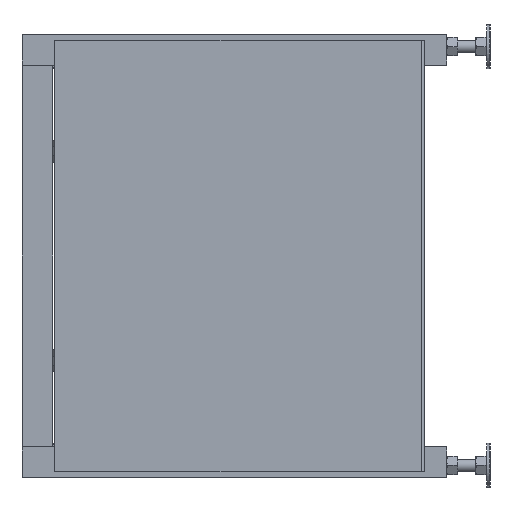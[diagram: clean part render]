
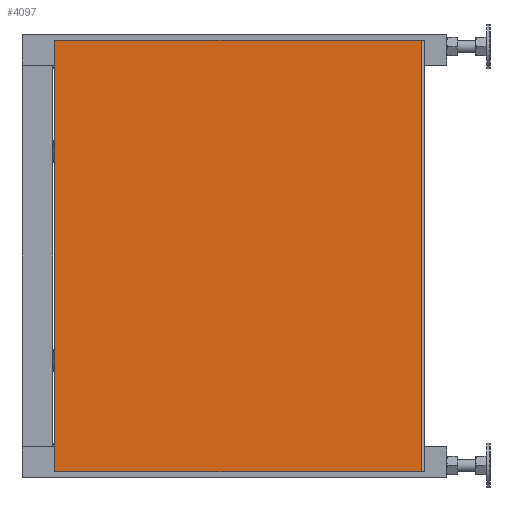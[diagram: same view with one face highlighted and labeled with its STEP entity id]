
A CAD part, left-side view. The second image highlights one B-rep face of the part: STEP entity #4097.
In plain terms, the highlighted planar face has unit normal (-1, 0, 0) as drawn and (0, 1, 0) by its records, which use the part's own axes.
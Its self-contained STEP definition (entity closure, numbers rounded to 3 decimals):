
#4097=ADVANCED_FACE('',(#6295),#6297,.T.);
#6295=FACE_BOUND('',#6296,.T.);
#6296=EDGE_LOOP('',(#7807,#7808,#7809,#7810));
#6297=PLANE('',#6298);
#6298=AXIS2_PLACEMENT_3D('',#6299,#6300,#6301);
#6299=CARTESIAN_POINT('',(0.,28.,-350.));
#6300=DIRECTION('',(0.,1.,-0.));
#6301=DIRECTION('',(-1.,0.,0.));
#7807=ORIENTED_EDGE('',*,*,#8545,.T.);
#7808=ORIENTED_EDGE('',*,*,#8546,.T.);
#7809=ORIENTED_EDGE('',*,*,#8547,.F.);
#7810=ORIENTED_EDGE('',*,*,#8548,.F.);
#8545=EDGE_CURVE('',#9421,#9422,#9423,.T.);
#8546=EDGE_CURVE('',#9422,#9424,#9425,.T.);
#8547=EDGE_CURVE('',#9426,#9424,#9427,.T.);
#8548=EDGE_CURVE('',#9421,#9426,#9428,.T.);
#9421=VERTEX_POINT('',#12840);
#9422=VERTEX_POINT('',#12841);
#9423=LINE('',#12842,#12843);
#9424=VERTEX_POINT('',#12845);
#9425=LINE('',#12846,#12847);
#9426=VERTEX_POINT('',#12849);
#9427=LINE('',#12850,#12851);
#9428=LINE('',#12853,#12854);
#12840=CARTESIAN_POINT('',(0.,28.,-350.));
#12841=CARTESIAN_POINT('',(-595.,28.,-350.));
#12842=CARTESIAN_POINT('',(0.,28.,-350.));
#12843=VECTOR('',#12844,1.);
#12844=DIRECTION('',(-1.,0.,0.));
#12845=CARTESIAN_POINT('',(-595.,28.,350.));
#12846=CARTESIAN_POINT('',(-595.,28.,-350.));
#12847=VECTOR('',#12848,1.);
#12848=DIRECTION('',(0.,0.,1.));
#12849=CARTESIAN_POINT('',(0.,28.,350.));
#12850=CARTESIAN_POINT('',(0.,28.,350.));
#12851=VECTOR('',#12852,1.);
#12852=DIRECTION('',(-1.,0.,0.));
#12853=CARTESIAN_POINT('',(0.,28.,-350.));
#12854=VECTOR('',#12855,1.);
#12855=DIRECTION('',(0.,0.,1.));
